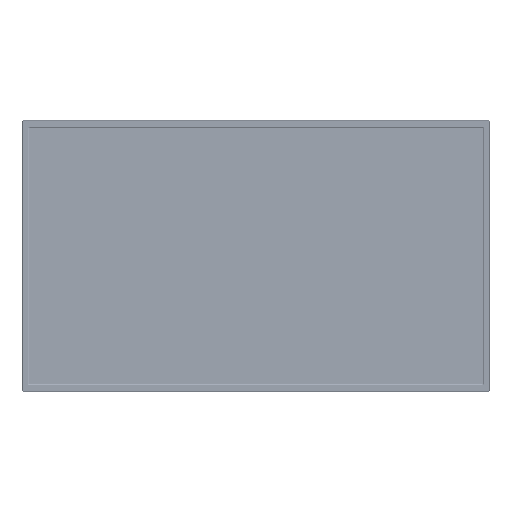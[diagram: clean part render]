
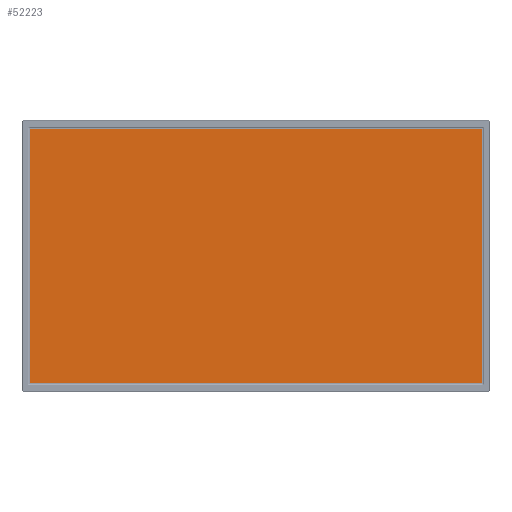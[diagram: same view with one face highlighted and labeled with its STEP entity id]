
A CAD part, top view. The second image highlights one B-rep face of the part: STEP entity #52223.
In plain terms, the highlighted planar face has unit normal (0, 0, 1).
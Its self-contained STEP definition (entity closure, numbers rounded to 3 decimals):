
#19303=DIRECTION('',(0.,-1.,0.));
#19304=VECTOR('',#19303,392.85);
#19305=CARTESIAN_POINT('',(-349.2,196.425,-0.025));
#19306=LINE('',#19305,#19304);
#19307=DIRECTION('',(1.,0.,0.));
#19308=VECTOR('',#19307,698.4);
#19309=CARTESIAN_POINT('',(-349.2,-196.425,-0.025));
#19310=LINE('',#19309,#19308);
#19311=DIRECTION('',(0.,1.,0.));
#19312=VECTOR('',#19311,392.85);
#19313=CARTESIAN_POINT('',(349.2,-196.425,-0.025));
#19314=LINE('',#19313,#19312);
#19315=DIRECTION('',(-1.,0.,0.));
#19316=VECTOR('',#19315,698.4);
#19317=CARTESIAN_POINT('',(349.2,196.425,-0.025));
#19318=LINE('',#19317,#19316);
#24746=CARTESIAN_POINT('',(-349.2,196.425,-0.025));
#24747=CARTESIAN_POINT('',(-349.2,-196.425,-0.025));
#24748=VERTEX_POINT('',#24746);
#24749=VERTEX_POINT('',#24747);
#24750=CARTESIAN_POINT('',(349.2,196.425,-0.025));
#24751=VERTEX_POINT('',#24750);
#24752=CARTESIAN_POINT('',(349.2,-196.425,-0.025));
#24753=VERTEX_POINT('',#24752);
#52212=CARTESIAN_POINT('',(0.,0.,-0.05));
#52213=DIRECTION('',(0.,0.,1.));
#52214=DIRECTION('',(1.,0.,0.));
#52215=AXIS2_PLACEMENT_3D('',#52212,#52213,#52214);
#52216=PLANE('',#52215);
#52217=ORIENTED_EDGE('',*,*,#52100,.F.);
#52218=ORIENTED_EDGE('',*,*,#52106,.F.);
#52219=ORIENTED_EDGE('',*,*,#52104,.F.);
#52220=ORIENTED_EDGE('',*,*,#52102,.F.);
#52221=EDGE_LOOP('',(#52217,#52218,#52219,#52220));
#52222=FACE_OUTER_BOUND('',#52221,.F.);
#52223=ADVANCED_FACE('',(#52222),#52216,.T.);
#52100=EDGE_CURVE('',#24748,#24749,#19306,.T.);
#52102=EDGE_CURVE('',#24749,#24753,#19310,.T.);
#52104=EDGE_CURVE('',#24753,#24751,#19314,.T.);
#52106=EDGE_CURVE('',#24751,#24748,#19318,.T.);
